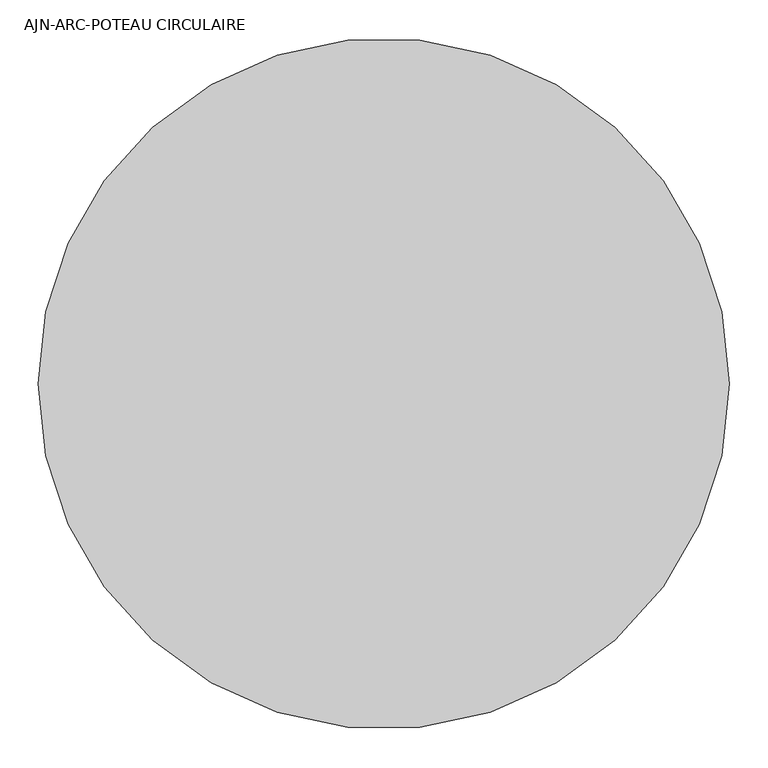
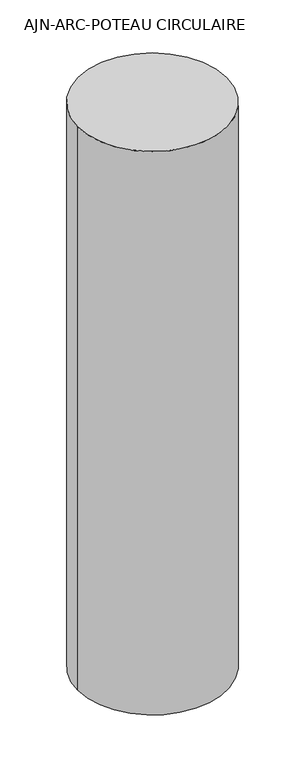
"""IFC4 building model written with IfcOpenShell, lengths in millimetres: column geometry, AJN-ARC-POTEAU CIRCULAIRE : ø90."""

from ifc_helpers import new_model, si_unit, point, frame, origin, origin_2d, place, context, project, spatial, circle_curve, trimmed, segment, composite_curve, outline, extrude, source, transform, mapped, element, save


def ajn_arc_poteau_circulaire_232542dc(model_context):
    return source(origin(), model_context, "Body", "SweptSolid", [
        extrude(outline(composite_curve([segment(trimmed(circle_curve(origin_2d(), 450.0), [point((-450.0, 0.0))], [point((450.0, 0.0))], False, "CARTESIAN"), True, "CONTINUOUS"), segment(trimmed(circle_curve(origin_2d(), 450.0), [point((450.0, 0.0))], [point((-450.0, 0.0))], False, "CARTESIAN"), True, "CONTINUOUS")], self_intersect=False)), frame((0.0, 0.0, 67599.9999686), z_axis=(0.0, 0.0, 1.0), x_axis=(1.0, 0.0, 0.0)), (0.0, 0.0, 1.0), 3600.0),
    ])


if __name__ == "__main__":
    model = new_model("IFC4")
    model_context = context("Model", 3, world=origin())
    ifc_project = project(units=[si_unit("LENGTHUNIT", "METRE", prefix="MILLI")], contexts=[model_context])
    site = spatial("IfcSite", under=ifc_project)
    building = spatial("IfcBuilding", under=site)
    placement = place(None, origin())
    ajn_arc_poteau_circulaire_shape = ajn_arc_poteau_circulaire_232542dc(model_context)
    element("IfcColumn", 1, ObjectType="AJN-ARC-POTEAU CIRCULAIRE : ø90", at=placement, inside=building, context=model_context, shape_type="MappedRepresentation", body=[
        mapped(ajn_arc_poteau_circulaire_shape, transform((0.0, 0.0, 0.0), x_axis=(1.0, 0.0, 0.0), y_axis=(0.0, 1.0, 0.0), z_axis=(0.0, 0.0, 1.0))),
    ])
    save(model, "model.ifc")
